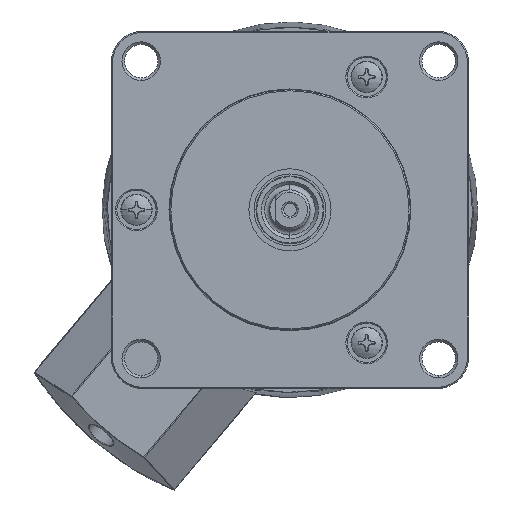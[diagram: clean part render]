
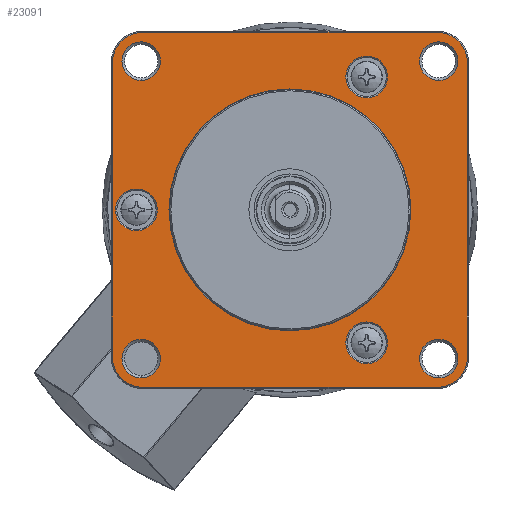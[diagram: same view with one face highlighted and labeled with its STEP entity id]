
A CAD part, left-side view. The second image highlights one B-rep face of the part: STEP entity #23091.
In plain terms, the highlighted planar face has unit normal (-1, 0, 0) as drawn and (0, 0, 1) by its records, which use the part's own axes.
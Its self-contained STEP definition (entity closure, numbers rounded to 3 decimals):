
#16738=CARTESIAN_POINT('',(-23.3,-23.3,19.));
#16739=DIRECTION('',(0.,0.,-1.));
#16740=DIRECTION('',(0.,-1.,0.));
#16741=AXIS2_PLACEMENT_3D('',#16738,#16739,#16740);
#16746=CARTESIAN_POINT('',(-23.3,23.3,19.));
#16747=DIRECTION('',(0.,0.,-1.));
#16748=DIRECTION('',(-1.,0.,0.));
#16749=AXIS2_PLACEMENT_3D('',#16746,#16747,#16748);
#16754=CARTESIAN_POINT('',(23.3,23.3,19.));
#16755=DIRECTION('',(0.,0.,-1.));
#16756=DIRECTION('',(0.,1.,0.));
#16757=AXIS2_PLACEMENT_3D('',#16754,#16755,#16756);
#16762=CARTESIAN_POINT('',(23.3,-23.3,19.));
#16763=DIRECTION('',(0.,0.,-1.));
#16764=DIRECTION('',(1.,0.,0.));
#16765=AXIS2_PLACEMENT_3D('',#16762,#16763,#16764);
#16770=CARTESIAN_POINT('',(-21.044,-12.15,19.));
#16771=DIRECTION('',(0.,0.,1.));
#16772=DIRECTION('',(-1.,0.,0.));
#16773=AXIS2_PLACEMENT_3D('',#16770,#16771,#16772);
#16778=CARTESIAN_POINT('',(-21.044,-12.15,19.));
#16779=DIRECTION('',(0.,0.,1.));
#16780=DIRECTION('',(1.,0.,0.));
#16781=AXIS2_PLACEMENT_3D('',#16778,#16779,#16780);
#16786=CARTESIAN_POINT('',(21.044,-12.15,19.));
#16787=DIRECTION('',(0.,0.,1.));
#16788=DIRECTION('',(-1.,0.,0.));
#16789=AXIS2_PLACEMENT_3D('',#16786,#16787,#16788);
#16794=CARTESIAN_POINT('',(21.044,-12.15,19.));
#16795=DIRECTION('',(0.,0.,1.));
#16796=DIRECTION('',(1.,0.,0.));
#16797=AXIS2_PLACEMENT_3D('',#16794,#16795,#16796);
#16802=CARTESIAN_POINT('',(0.,24.3,19.));
#16803=DIRECTION('',(0.,0.,1.));
#16804=DIRECTION('',(-1.,0.,0.));
#16805=AXIS2_PLACEMENT_3D('',#16802,#16803,#16804);
#16810=CARTESIAN_POINT('',(0.,24.3,19.));
#16811=DIRECTION('',(0.,0.,1.));
#16812=DIRECTION('',(1.,0.,0.));
#16813=AXIS2_PLACEMENT_3D('',#16810,#16811,#16812);
#16818=CARTESIAN_POINT('',(0.,0.,19.));
#16819=DIRECTION('',(0.,0.,1.));
#16820=DIRECTION('',(-1.,0.,0.));
#16821=AXIS2_PLACEMENT_3D('',#16818,#16819,#16820);
#16826=CARTESIAN_POINT('',(0.,0.,19.));
#16827=DIRECTION('',(0.,0.,1.));
#16828=DIRECTION('',(1.,0.,0.));
#16829=AXIS2_PLACEMENT_3D('',#16826,#16827,#16828);
#16834=CARTESIAN_POINT('',(23.55,-23.55,19.));
#16835=DIRECTION('',(0.,0.,1.));
#16836=DIRECTION('',(-1.,0.,0.));
#16837=AXIS2_PLACEMENT_3D('',#16834,#16835,#16836);
#16842=CARTESIAN_POINT('',(23.55,-23.55,19.));
#16843=DIRECTION('',(0.,0.,1.));
#16844=DIRECTION('',(1.,0.,0.));
#16845=AXIS2_PLACEMENT_3D('',#16842,#16843,#16844);
#16850=CARTESIAN_POINT('',(-23.55,-23.55,19.));
#16851=DIRECTION('',(0.,0.,1.));
#16852=DIRECTION('',(-1.,0.,0.));
#16853=AXIS2_PLACEMENT_3D('',#16850,#16851,#16852);
#16858=CARTESIAN_POINT('',(-23.55,-23.55,19.));
#16859=DIRECTION('',(0.,0.,1.));
#16860=DIRECTION('',(1.,0.,0.));
#16861=AXIS2_PLACEMENT_3D('',#16858,#16859,#16860);
#16866=CARTESIAN_POINT('',(-23.55,23.55,19.));
#16867=DIRECTION('',(0.,0.,1.));
#16868=DIRECTION('',(-1.,0.,0.));
#16869=AXIS2_PLACEMENT_3D('',#16866,#16867,#16868);
#16874=CARTESIAN_POINT('',(-23.55,23.55,19.));
#16875=DIRECTION('',(0.,0.,1.));
#16876=DIRECTION('',(1.,0.,0.));
#16877=AXIS2_PLACEMENT_3D('',#16874,#16875,#16876);
#16882=CARTESIAN_POINT('',(23.55,23.55,19.));
#16883=DIRECTION('',(0.,0.,1.));
#16884=DIRECTION('',(-1.,0.,0.));
#16885=AXIS2_PLACEMENT_3D('',#16882,#16883,#16884);
#16890=CARTESIAN_POINT('',(23.55,23.55,19.));
#16891=DIRECTION('',(0.,0.,1.));
#16892=DIRECTION('',(1.,0.,0.));
#16893=AXIS2_PLACEMENT_3D('',#16890,#16891,#16892);
#16898=DIRECTION('',(0.,-1.,0.));
#16899=VECTOR('',#16898,46.6);
#16900=CARTESIAN_POINT('',(-28.1,23.3,19.));
#16901=LINE('',#16900,#16899);
#16919=DIRECTION('',(-1.,0.,0.));
#16920=VECTOR('',#16919,46.6);
#16921=CARTESIAN_POINT('',(23.3,28.1,19.));
#16922=LINE('',#16921,#16920);
#18424=DIRECTION('',(0.,1.,0.));
#18425=VECTOR('',#18424,46.6);
#18426=CARTESIAN_POINT('',(28.1,-23.3,19.));
#18427=LINE('',#18426,#18425);
#18453=DIRECTION('',(1.,0.,0.));
#18454=VECTOR('',#18453,46.6);
#18455=CARTESIAN_POINT('',(-23.3,-28.1,19.));
#18456=LINE('',#18455,#18454);
#21945=CARTESIAN_POINT('',(-26.6,-23.55,19.));
#21946=VERTEX_POINT('',#21945);
#21947=CARTESIAN_POINT('',(-20.5,-23.55,19.));
#21948=VERTEX_POINT('',#21947);
#21949=CARTESIAN_POINT('',(-23.3,-28.1,19.));
#21950=CARTESIAN_POINT('',(-28.1,-23.3,19.));
#21951=VERTEX_POINT('',#21949);
#21952=VERTEX_POINT('',#21950);
#21953=CARTESIAN_POINT('',(-28.1,23.3,19.));
#21954=CARTESIAN_POINT('',(-23.3,28.1,19.));
#21955=VERTEX_POINT('',#21953);
#21956=VERTEX_POINT('',#21954);
#21957=CARTESIAN_POINT('',(23.3,28.1,19.));
#21958=CARTESIAN_POINT('',(28.1,23.3,19.));
#21959=VERTEX_POINT('',#21957);
#21960=VERTEX_POINT('',#21958);
#21961=CARTESIAN_POINT('',(28.1,-23.3,19.));
#21962=CARTESIAN_POINT('',(23.3,-28.1,19.));
#21963=VERTEX_POINT('',#21961);
#21964=VERTEX_POINT('',#21962);
#21965=CARTESIAN_POINT('',(-24.344,-12.15,19.));
#21966=CARTESIAN_POINT('',(-17.744,-12.15,19.));
#21967=VERTEX_POINT('',#21965);
#21968=VERTEX_POINT('',#21966);
#21969=CARTESIAN_POINT('',(17.744,-12.15,19.));
#21970=CARTESIAN_POINT('',(24.344,-12.15,19.));
#21971=VERTEX_POINT('',#21969);
#21972=VERTEX_POINT('',#21970);
#21973=CARTESIAN_POINT('',(-3.3,24.3,19.));
#21974=CARTESIAN_POINT('',(3.3,24.3,19.));
#21975=VERTEX_POINT('',#21973);
#21976=VERTEX_POINT('',#21974);
#21977=CARTESIAN_POINT('',(-19.15,0.,19.));
#21978=CARTESIAN_POINT('',(19.15,0.,19.));
#21979=VERTEX_POINT('',#21977);
#21980=VERTEX_POINT('',#21978);
#21981=CARTESIAN_POINT('',(20.5,-23.55,19.));
#21982=CARTESIAN_POINT('',(26.6,-23.55,19.));
#21983=VERTEX_POINT('',#21981);
#21984=VERTEX_POINT('',#21982);
#21985=CARTESIAN_POINT('',(-26.6,23.55,19.));
#21986=CARTESIAN_POINT('',(-20.5,23.55,19.));
#21987=VERTEX_POINT('',#21985);
#21988=VERTEX_POINT('',#21986);
#21989=CARTESIAN_POINT('',(20.5,23.55,19.));
#21990=CARTESIAN_POINT('',(26.6,23.55,19.));
#21991=VERTEX_POINT('',#21989);
#21992=VERTEX_POINT('',#21990);
#23022=CARTESIAN_POINT('',(0.,0.,19.));
#23023=DIRECTION('',(0.,0.,1.));
#23024=DIRECTION('',(1.,0.,0.));
#23025=AXIS2_PLACEMENT_3D('',#23022,#23023,#23024);
#23026=PLANE('',#23025);
#23028=ORIENTED_EDGE('',*,*,#23027,.T.);
#23030=ORIENTED_EDGE('',*,*,#23029,.F.);
#23032=ORIENTED_EDGE('',*,*,#23031,.T.);
#23034=ORIENTED_EDGE('',*,*,#23033,.F.);
#23036=ORIENTED_EDGE('',*,*,#23035,.T.);
#23038=ORIENTED_EDGE('',*,*,#23037,.F.);
#23040=ORIENTED_EDGE('',*,*,#23039,.T.);
#23042=ORIENTED_EDGE('',*,*,#23041,.F.);
#23043=EDGE_LOOP('',(#23028,#23030,#23032,#23034,#23036,#23038,#23040,#23042));
#23044=FACE_OUTER_BOUND('',#23043,.F.);
#23046=ORIENTED_EDGE('',*,*,#23045,.T.);
#23048=ORIENTED_EDGE('',*,*,#23047,.T.);
#23049=EDGE_LOOP('',(#23046,#23048));
#23050=FACE_BOUND('',#23049,.F.);
#23052=ORIENTED_EDGE('',*,*,#23051,.T.);
#23054=ORIENTED_EDGE('',*,*,#23053,.T.);
#23055=EDGE_LOOP('',(#23052,#23054));
#23056=FACE_BOUND('',#23055,.F.);
#23057=ORIENTED_EDGE('',*,*,#22978,.T.);
#23058=ORIENTED_EDGE('',*,*,#23003,.T.);
#23059=EDGE_LOOP('',(#23057,#23058));
#23060=FACE_BOUND('',#23059,.F.);
#23062=ORIENTED_EDGE('',*,*,#23061,.T.);
#23064=ORIENTED_EDGE('',*,*,#23063,.T.);
#23065=EDGE_LOOP('',(#23062,#23064));
#23066=FACE_BOUND('',#23065,.F.);
#23068=ORIENTED_EDGE('',*,*,#23067,.T.);
#23070=ORIENTED_EDGE('',*,*,#23069,.T.);
#23071=EDGE_LOOP('',(#23068,#23070));
#23072=FACE_BOUND('',#23071,.F.);
#23074=ORIENTED_EDGE('',*,*,#23073,.T.);
#23076=ORIENTED_EDGE('',*,*,#23075,.T.);
#23077=EDGE_LOOP('',(#23074,#23076));
#23078=FACE_BOUND('',#23077,.F.);
#23080=ORIENTED_EDGE('',*,*,#23079,.T.);
#23082=ORIENTED_EDGE('',*,*,#23081,.T.);
#23083=EDGE_LOOP('',(#23080,#23082));
#23084=FACE_BOUND('',#23083,.F.);
#23086=ORIENTED_EDGE('',*,*,#23085,.T.);
#23088=ORIENTED_EDGE('',*,*,#23087,.T.);
#23089=EDGE_LOOP('',(#23086,#23088));
#23090=FACE_BOUND('',#23089,.F.);
#16742=CIRCLE('',#16741,4.8);
#16750=CIRCLE('',#16749,4.8);
#16758=CIRCLE('',#16757,4.8);
#16766=CIRCLE('',#16765,4.8);
#16774=CIRCLE('',#16773,3.3);
#16782=CIRCLE('',#16781,3.3);
#16790=CIRCLE('',#16789,3.3);
#16798=CIRCLE('',#16797,3.3);
#16806=CIRCLE('',#16805,3.3);
#16814=CIRCLE('',#16813,3.3);
#16822=CIRCLE('',#16821,19.15);
#16830=CIRCLE('',#16829,19.15);
#16838=CIRCLE('',#16837,3.05);
#16846=CIRCLE('',#16845,3.05);
#16854=CIRCLE('',#16853,3.05);
#16862=CIRCLE('',#16861,3.05);
#16870=CIRCLE('',#16869,3.05);
#16878=CIRCLE('',#16877,3.05);
#16886=CIRCLE('',#16885,3.05);
#16894=CIRCLE('',#16893,3.05);
#22978=EDGE_CURVE('',#21975,#21976,#16806,.T.);
#23003=EDGE_CURVE('',#21976,#21975,#16814,.T.);
#23027=EDGE_CURVE('',#21951,#21952,#16742,.T.);
#23029=EDGE_CURVE('',#21955,#21952,#16901,.T.);
#23031=EDGE_CURVE('',#21955,#21956,#16750,.T.);
#23033=EDGE_CURVE('',#21959,#21956,#16922,.T.);
#23035=EDGE_CURVE('',#21959,#21960,#16758,.T.);
#23037=EDGE_CURVE('',#21963,#21960,#18427,.T.);
#23039=EDGE_CURVE('',#21963,#21964,#16766,.T.);
#23041=EDGE_CURVE('',#21951,#21964,#18456,.T.);
#23045=EDGE_CURVE('',#21967,#21968,#16774,.T.);
#23047=EDGE_CURVE('',#21968,#21967,#16782,.T.);
#23051=EDGE_CURVE('',#21971,#21972,#16790,.T.);
#23053=EDGE_CURVE('',#21972,#21971,#16798,.T.);
#23061=EDGE_CURVE('',#21979,#21980,#16822,.T.);
#23063=EDGE_CURVE('',#21980,#21979,#16830,.T.);
#23067=EDGE_CURVE('',#21983,#21984,#16838,.T.);
#23069=EDGE_CURVE('',#21984,#21983,#16846,.T.);
#23073=EDGE_CURVE('',#21946,#21948,#16854,.T.);
#23075=EDGE_CURVE('',#21948,#21946,#16862,.T.);
#23079=EDGE_CURVE('',#21987,#21988,#16870,.T.);
#23081=EDGE_CURVE('',#21988,#21987,#16878,.T.);
#23085=EDGE_CURVE('',#21991,#21992,#16886,.T.);
#23087=EDGE_CURVE('',#21992,#21991,#16894,.T.);
#23091=ADVANCED_FACE('',(#23044,#23050,#23056,#23060,#23066,#23072,#23078,
#23084,#23090),#23026,.T.);
